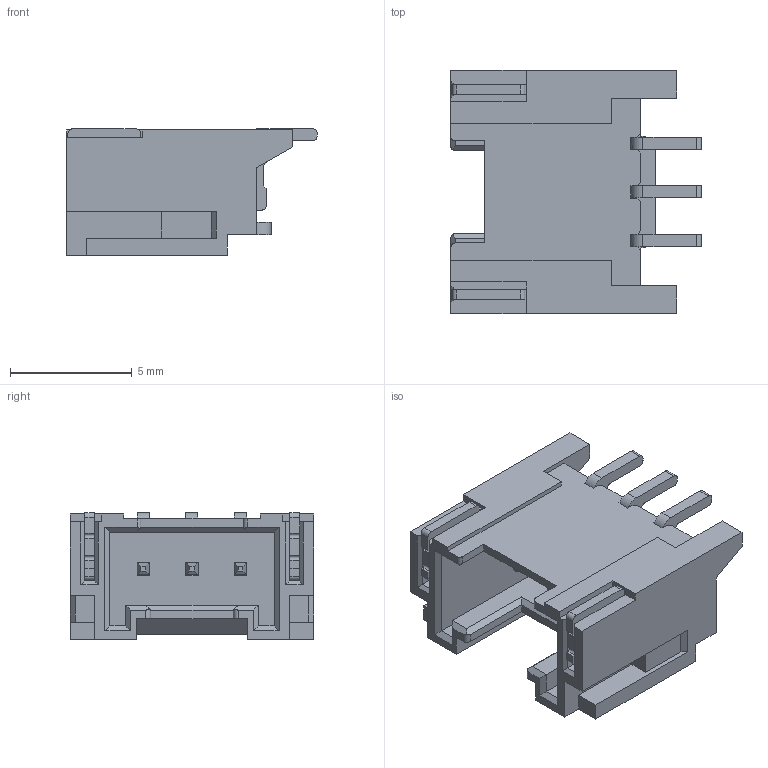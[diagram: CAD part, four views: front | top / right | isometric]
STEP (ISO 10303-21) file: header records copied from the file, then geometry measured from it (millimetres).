
FILE_DESCRIPTION((''),'2;1');
FILE_NAME('S-51313-003XX-001_ASM','2016-01-30T',('d21450'),(''),'CREO PARAMETRIC BY PTC INC, 2014500','CREO PARAMETRIC BY PTC INC, 2014500','');
FILE_SCHEMA(('CONFIG_CONTROL_DESIGN'));
Length unit declared in the file: millimetre
Products named in the file (1): S-51313-003XX-001_ASM
Bounding box: 10.3 x 10 x 5.2 mm (x, y, z)
Volume: 211.6 mm3; surface area: 595.5 mm2
Topology: 1 solids, 1 shells, 363 faces, 1034 edges, 672 vertices
Faces by surface type: plane 317, cylinder 46
Entity records: 11595 total; most frequent: CARTESIAN_POINT 2074, ORIENTED_EDGE 2028, DIRECTION 1845, EDGE_CURVE 1014, VECTOR 935, LINE 935, VERTEX_POINT 652, AXIS2_PLACEMENT_3D 455
